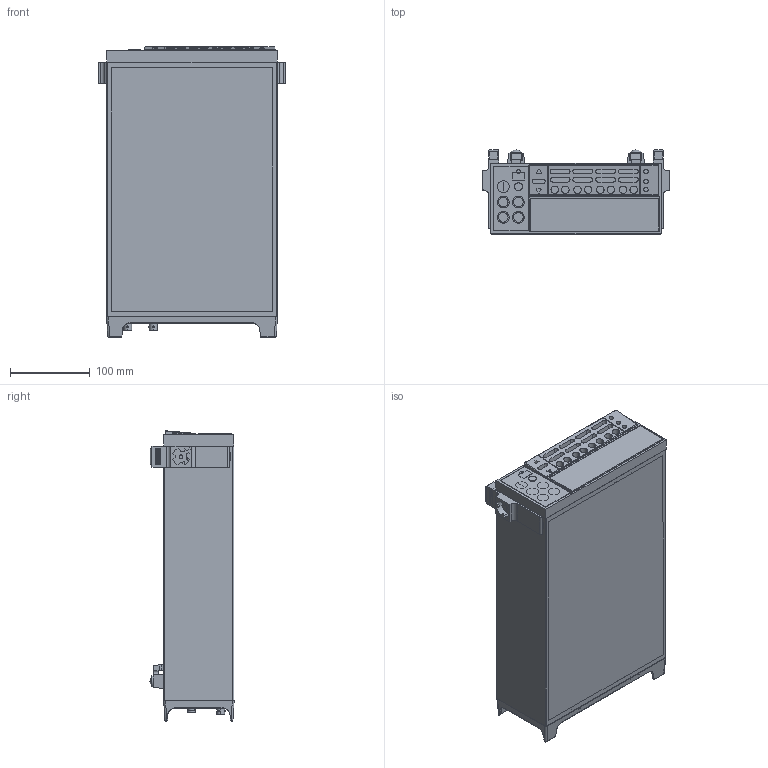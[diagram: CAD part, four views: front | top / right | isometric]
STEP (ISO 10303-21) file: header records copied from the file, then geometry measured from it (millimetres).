
FILE_DESCRIPTION((''),'2;1');
FILE_NAME('6482_ASM','2020-04-28T12:44:34',('afergus2'),('Keithley Instruments'),'CREO PARAMETRIC BY PTC INC, 2019080','CREO PARAMETRIC BY PTC INC, 2019080','');
FILE_SCHEMA(('AUTOMOTIVE_DESIGN { 1 0 10303 214 1 1 1 1 }'));
Length unit declared in the file: inch
Products named in the file (81): 2500-301_AF1; 6482-303_AF0; 6482-304; 6482-303_AF1_ASM; 6-32X1-4PFH; 6482-302_AF1_ASM; BJ-14-SHELL_AF2; BJ-14-PIN_AF2; BJ-14-2_AF2_ASM; BJ-14-SHELL_AF3; BJ-14-PIN_AF3; BJ-14-2_AF3_ASM; CS-630_AF0; CS-630-INTLKWA; CS-630-HEXNUT; CS-630_AF1_ASM; CS-630_AF2; CS-630_AF3_ASM; 2400-318_AF1; 6517-309; 2400-110; 428-319_AF2; 428-319_AF3; FE-6_AF2; FE-6_AF3; PM-1-1_AF1; FH-35_AF1; TR-342_AF2; TR-342_AF3; 2500_132C_AF1; PCB_AF1; BIG_HEATSINK_AF1; SMALL_HEATSINK_AF1; 022438040_AF2; 022438040_AF3; PS-75_AF1_ASM; 6430-313_AF1; 6482-311; 6482-312; 6482-311_ASM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
Assembly tree (83 placements, depth 4):
  6482_ASM
    6482-302_AF1_ASM
      2500-301_AF1
      6482-303_AF1_ASM
        6482-303_AF0
        6482-304
      6-32X1-4PFH  x2
    BJ-14-2_AF2_ASM
      BJ-14-SHELL_AF2
      BJ-14-PIN_AF2
    BJ-14-2_AF3_ASM
      BJ-14-SHELL_AF3
      BJ-14-PIN_AF3
    CS-630_AF1_ASM
      CS-630_AF0
      CS-630-INTLKWA
      CS-630-HEXNUT
    CS-630_AF3_ASM
      CS-630_AF2
      CS-630-INTLKWA
      CS-630-HEXNUT
    2400-318_AF1
    6517-309
    2400-110
    428-319_AF2
    428-319_AF3
    FE-6_AF2
    FE-6_AF3
    PM-1-1_AF1
    FH-35_AF1
    TR-342_AF2
    TR-342_AF3
    2500_132C_AF1
    PS-75_AF1_ASM
      PCB_AF1
      BIG_HEATSINK_AF1
      SMALL_HEATSINK_AF1
      022438040_AF2
      022438040_AF3
    6430-313_AF1
    6482-311_ASM
      6482-311
      6482-312
    2500-100_AF1_ASM
      2500-102_AF1
      2500_102E_TOP
      CS-762_AF1
      CS-1072-1_AF1
      CS-501_AF1
      HS-39_AF2
      HS-39_AF3
      C-584-220_AF4
      C-584-220_AF5
      C-584-220_AF6
      C-584-220_AF7
      C-354-47_AF4
      C-354-47_AF5
      C-354-47_AF6
      C-354-47_AF7
      C-498-100_AF4
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Bounding box: 233.93 x 105.44 x 363.61 mm (x, y, z)
Volume: 600931.1 mm3; surface area: 757937.4 mm2
Topology: 63 solids, 63 shells, 5661 faces, 165954 edges, 191062 vertices
Faces by surface type: plane 4510, cylinder 929, bspline 156, cone 46, torus 12, sphere 8
Entity records: 1620941 total; most frequent: CARTESIAN_POINT 190083, DIRECTION 182880, PRESENTATION_STYLE_ASSIGNMENT 170084, STYLED_ITEM 170084, CURVE_STYLE 169903, VECTOR 162636, LINE 162636, TRIMMED_CURVE 151542
